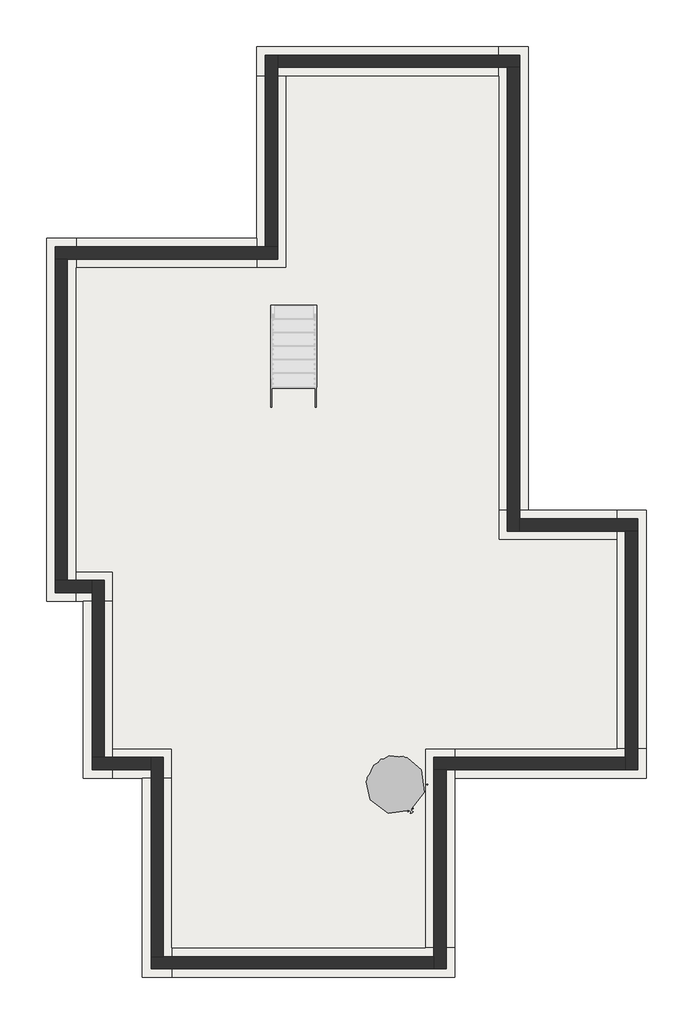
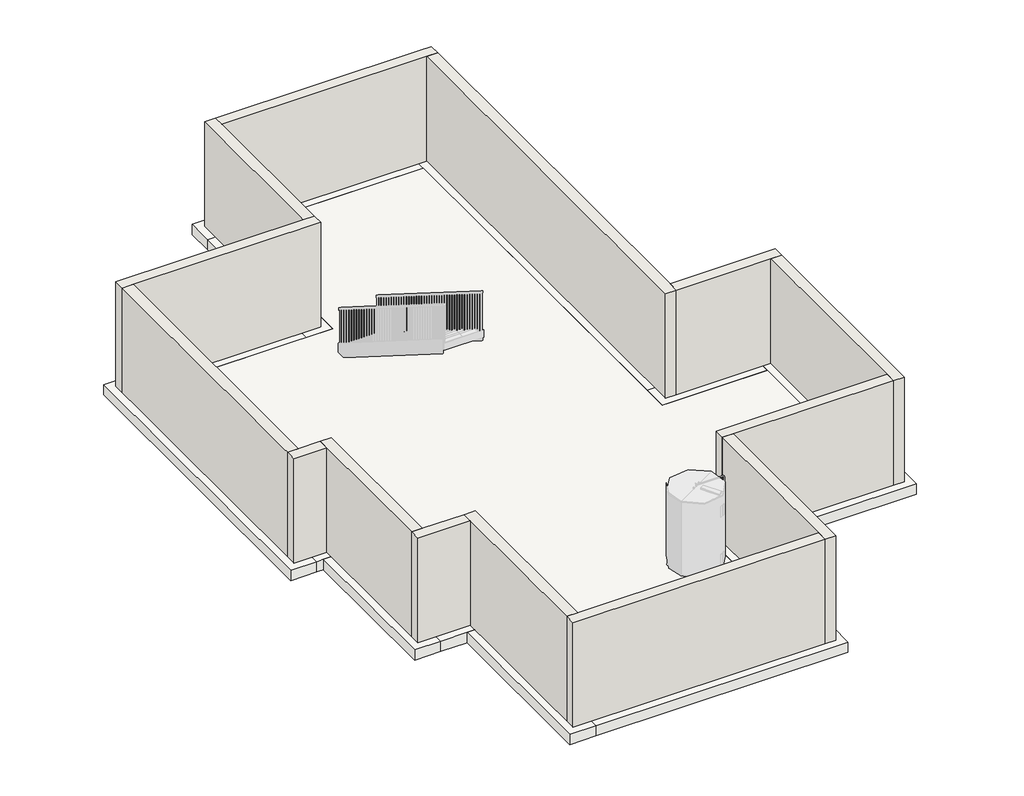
# One storey, part 1 of 2: 14 footings, 14 walls, 1 slab.
"""IFC4 building model written with IfcOpenShell, lengths in millimetres."""

from ifc_helpers import new_model, si_unit, frame, origin, place, context, project, spatial, polyline, outline, extrude, faceted_brep, element, save

model = new_model("IFC4")

# Units and contexts
model_context = context("Model", 3, world=origin())
ifc_project = project(units=[si_unit("LENGTHUNIT", "METRE", prefix="MILLI")], contexts=[model_context])

# Site, building, storey
site = spatial("IfcSite", under=ifc_project)
building = spatial("IfcBuilding", under=site)
storey = spatial("IfcBuildingStorey", under=building, Name="T.O. Footing", Elevation=-2819.4)

# Footings
placement = place(None, origin())
element("IfcFooting", 1, ObjectType="Bearing Footing - 24\" x 10\"", at=placement, inside=storey, context=model_context, shape_type="Brep", body=[
    faceted_brep([(-10272.1230992, -3659.4077303, -2819.4), (-10272.1230992, -3049.8077303, -2819.4), (-10272.1230992, 3233.5172697, -2819.4), (-10272.1230992, 3843.1172697, -2819.4), (-10881.7230992, 3843.1172697, -2819.4), (-10881.7230992, -3659.4077303, -2819.4), (-10881.7230992, -3659.4077303, -3073.4), (-10881.7230992, 3843.1172697, -3073.4), (-10272.1230992, -3659.4077303, -3073.4), (-10272.1230992, 3843.1172697, -3073.4), (-10272.1230992, 3233.5172697, -3073.4), (-10272.1230992, -3049.8077303, -3073.4)], [[[0, 1, 2, 3, 4, 5]], [[6, 5, 4, 7]], [[8, 6, 7, 9, 10, 11]], [[0, 8, 11, 10, 9, 3, 2, 1]], [[0, 5, 6, 8]], [[4, 3, 9, 7]]]),
])
element("IfcFooting", 2, ObjectType="Bearing Footing - 24\" x 10\"", at=placement, inside=storey, context=model_context, shape_type="Brep", body=[
    faceted_brep([(-9510.1230992, -3659.4077303, -2819.4), (-9510.1230992, -3049.8077303, -2819.4), (-10272.1230992, -3049.8077303, -2819.4), (-10272.1230992, -3659.4077303, -2819.4), (-10119.7230992, -3659.4077303, -2819.4), (-9510.1230992, -3659.4077303, -3073.4), (-10272.1230992, -3659.4077303, -3073.4), (-10119.7230992, -3659.4077303, -3073.4), (-9510.1230992, -3049.8077303, -3073.4), (-10272.1230992, -3049.8077303, -3073.4)], [[[0, 1, 2, 3, 4]], [[5, 0, 4, 3, 6, 7]], [[8, 5, 7, 6, 9]], [[1, 8, 9, 2]], [[3, 2, 9, 6]], [[1, 0, 5, 8]]]),
])
element("IfcFooting", 3, ObjectType="Bearing Footing - 24\" x 10\"", at=placement, inside=storey, context=model_context, shape_type="Brep", body=[
    faceted_brep([(-10119.7230992, -7317.0077303, -2819.4), (-9510.1230992, -7317.0077303, -2819.4), (-9510.1230992, -6707.4077303, -2819.4), (-9510.1230992, -3659.4077303, -2819.4), (-10119.7230992, -3659.4077303, -2819.4), (-10119.7230992, -7317.0077303, -3073.4), (-10119.7230992, -3659.4077303, -3073.4), (-9510.1230992, -7317.0077303, -3073.4), (-9510.1230992, -3659.4077303, -3073.4), (-9510.1230992, -6707.4077303, -3073.4)], [[[0, 1, 2, 3, 4]], [[5, 0, 4, 6]], [[7, 5, 6, 8, 9]], [[1, 7, 9, 8, 3, 2]], [[4, 3, 8, 6]], [[1, 0, 5, 7]]]),
])
element("IfcFooting", 4, ObjectType="Bearing Footing - 24\" x 10\"", at=placement, inside=storey, context=model_context, shape_type="Brep", body=[
    faceted_brep([(-8290.9230992, -7317.0077303, -2819.4), (-8290.9230992, -6707.4077303, -2819.4), (-9510.1230992, -6707.4077303, -2819.4), (-9510.1230992, -7317.0077303, -2819.4), (-8900.5230992, -7317.0077303, -2819.4), (-8290.9230992, -7317.0077303, -3073.4), (-9510.1230992, -7317.0077303, -3073.4), (-8900.5230992, -7317.0077303, -3073.4), (-8290.9230992, -6707.4077303, -3073.4), (-9510.1230992, -6707.4077303, -3073.4)], [[[0, 1, 2, 3, 4]], [[5, 0, 4, 3, 6, 7]], [[8, 5, 7, 6, 9]], [[1, 8, 9, 2]], [[3, 2, 9, 6]], [[1, 0, 5, 8]]]),
])
element("IfcFooting", 5, ObjectType="Bearing Footing - 24\" x 10\"", at=placement, inside=storey, context=model_context, shape_type="Brep", body=[
    faceted_brep([(-8900.5230992, -11431.8077303, -2819.4), (-8290.9230992, -11431.8077303, -2819.4), (-8290.9230992, -10822.2077303, -2819.4), (-8290.9230992, -7317.0077303, -2819.4), (-8900.5230992, -7317.0077303, -2819.4), (-8900.5230992, -11431.8077303, -3073.4), (-8900.5230992, -7317.0077303, -3073.4), (-8290.9230992, -11431.8077303, -3073.4), (-8290.9230992, -7317.0077303, -3073.4), (-8290.9230992, -10822.2077303, -3073.4)], [[[0, 1, 2, 3, 4]], [[5, 0, 4, 6]], [[7, 5, 6, 8, 9]], [[1, 7, 9, 8, 3, 2]], [[4, 3, 8, 6]], [[1, 0, 5, 7]]]),
])
element("IfcFooting", 6, ObjectType="Bearing Footing - 24\" x 10\"", at=placement, inside=storey, context=model_context, shape_type="Brep", body=[
    faceted_brep([(-2448.9230992, -11431.8077303, -2819.4), (-2448.9230992, -10822.2077303, -2819.4), (-3058.5230992, -10822.2077303, -2819.4), (-8290.9230992, -10822.2077303, -2819.4), (-8290.9230992, -11431.8077303, -2819.4), (-2448.9230992, -11431.8077303, -3073.4), (-8290.9230992, -11431.8077303, -3073.4), (-2448.9230992, -10822.2077303, -3073.4), (-8290.9230992, -10822.2077303, -3073.4), (-3058.5230992, -10822.2077303, -3073.4)], [[[0, 1, 2, 3, 4]], [[5, 0, 4, 6]], [[7, 5, 6, 8, 9]], [[1, 7, 9, 8, 3, 2]], [[4, 3, 8, 6]], [[1, 0, 5, 7]]]),
])
element("IfcFooting", 7, ObjectType="Bearing Footing - 24\" x 10\"", at=placement, inside=storey, context=model_context, shape_type="Brep", body=[
    faceted_brep([(-2448.9230992, -6707.4077303, -2819.4), (-3058.5230992, -6707.4077303, -2819.4), (-3058.5230992, -10822.2077303, -2819.4), (-2448.9230992, -10822.2077303, -2819.4), (-2448.9230992, -7317.0077303, -2819.4), (-2448.9230992, -6707.4077303, -3073.4), (-2448.9230992, -10822.2077303, -3073.4), (-2448.9230992, -7317.0077303, -3073.4), (-3058.5230992, -6707.4077303, -3073.4), (-3058.5230992, -10822.2077303, -3073.4)], [[[0, 1, 2, 3, 4]], [[5, 0, 4, 3, 6, 7]], [[8, 5, 7, 6, 9]], [[1, 8, 9, 2]], [[3, 2, 9, 6]], [[1, 0, 5, 8]]]),
])
element("IfcFooting", 8, ObjectType="Bearing Footing - 24\" x 10\"", at=placement, inside=storey, context=model_context, shape_type="Brep", body=[
    faceted_brep([(1513.4769008, -7317.0077303, -2819.4), (1513.4769008, -6707.4077303, -2819.4), (903.8769008, -6707.4077303, -2819.4), (-2448.9230992, -6707.4077303, -2819.4), (-2448.9230992, -7317.0077303, -2819.4), (1513.4769008, -7317.0077303, -3073.4), (-2448.9230992, -7317.0077303, -3073.4), (1513.4769008, -6707.4077303, -3073.4), (-2448.9230992, -6707.4077303, -3073.4), (903.8769008, -6707.4077303, -3073.4)], [[[0, 1, 2, 3, 4]], [[5, 0, 4, 6]], [[7, 5, 6, 8, 9]], [[1, 7, 9, 8, 3, 2]], [[4, 3, 8, 6]], [[1, 0, 5, 7]]]),
])
element("IfcFooting", 9, ObjectType="Bearing Footing - 24\" x 10\"", at=placement, inside=storey, context=model_context, shape_type="Brep", body=[
    faceted_brep([(1513.4769008, -1779.8077303, -2819.4), (903.8769008, -1779.8077303, -2819.4), (903.8769008, -2389.4077303, -2819.4), (903.8769008, -6707.4077303, -2819.4), (1513.4769008, -6707.4077303, -2819.4), (1513.4769008, -1779.8077303, -3073.4), (1513.4769008, -6707.4077303, -3073.4), (903.8769008, -1779.8077303, -3073.4), (903.8769008, -6707.4077303, -3073.4), (903.8769008, -2389.4077303, -3073.4)], [[[0, 1, 2, 3, 4]], [[5, 0, 4, 6]], [[7, 5, 6, 8, 9]], [[1, 7, 9, 8, 3, 2]], [[4, 3, 8, 6]], [[1, 0, 5, 7]]]),
])
element("IfcFooting", 10, ObjectType="Bearing Footing - 24\" x 10\"", at=placement, inside=storey, context=model_context, shape_type="Brep", body=[
    faceted_brep([(-1534.5230992, -1779.8077303, -2819.4), (-1534.5230992, -2389.4077303, -2819.4), (903.8769008, -2389.4077303, -2819.4), (903.8769008, -1779.8077303, -2819.4), (-924.9230992, -1779.8077303, -2819.4), (-1534.5230992, -1779.8077303, -3073.4), (903.8769008, -1779.8077303, -3073.4), (-924.9230992, -1779.8077303, -3073.4), (-1534.5230992, -2389.4077303, -3073.4), (903.8769008, -2389.4077303, -3073.4)], [[[0, 1, 2, 3, 4]], [[5, 0, 4, 3, 6, 7]], [[8, 5, 7, 6, 9]], [[1, 8, 9, 2]], [[3, 2, 9, 6]], [[1, 0, 5, 8]]]),
])
element("IfcFooting", 11, ObjectType="Bearing Footing - 24\" x 10\"", at=placement, inside=storey, context=model_context, shape_type="Brep", body=[
    faceted_brep([(-924.9230992, 7805.5172697, -2819.4), (-1534.5230992, 7805.5172697, -2819.4), (-1534.5230992, 7195.9172697, -2819.4), (-1534.5230992, -1779.8077303, -2819.4), (-924.9230992, -1779.8077303, -2819.4), (-924.9230992, 7805.5172697, -3073.4), (-924.9230992, -1779.8077303, -3073.4), (-1534.5230992, 7805.5172697, -3073.4), (-1534.5230992, -1779.8077303, -3073.4), (-1534.5230992, 7195.9172697, -3073.4)], [[[0, 1, 2, 3, 4]], [[5, 0, 4, 6]], [[7, 5, 6, 8, 9]], [[1, 7, 9, 8, 3, 2]], [[4, 3, 8, 6]], [[1, 0, 5, 7]]]),
])
element("IfcFooting", 12, ObjectType="Bearing Footing - 24\" x 10\"", at=placement, inside=storey, context=model_context, shape_type="Brep", body=[
    faceted_brep([(-6538.3230992, 7805.5172697, -2819.4), (-6538.3230992, 7195.9172697, -2819.4), (-5928.7230992, 7195.9172697, -2819.4), (-1534.5230992, 7195.9172697, -2819.4), (-1534.5230992, 7805.5172697, -2819.4), (-6538.3230992, 7805.5172697, -3073.4), (-1534.5230992, 7805.5172697, -3073.4), (-6538.3230992, 7195.9172697, -3073.4), (-1534.5230992, 7195.9172697, -3073.4), (-5928.7230992, 7195.9172697, -3073.4)], [[[0, 1, 2, 3, 4]], [[5, 0, 4, 6]], [[7, 5, 6, 8, 9]], [[1, 7, 9, 8, 3, 2]], [[4, 3, 8, 6]], [[1, 0, 5, 7]]]),
])
element("IfcFooting", 13, ObjectType="Bearing Footing - 24\" x 10\"", at=placement, inside=storey, context=model_context, shape_type="Brep", body=[
    faceted_brep([(-6538.3230992, 3233.5172697, -2819.4), (-5928.7230992, 3233.5172697, -2819.4), (-5928.7230992, 7195.9172697, -2819.4), (-6538.3230992, 7195.9172697, -2819.4), (-6538.3230992, 3843.1172697, -2819.4), (-6538.3230992, 3233.5172697, -3073.4), (-6538.3230992, 7195.9172697, -3073.4), (-6538.3230992, 3843.1172697, -3073.4), (-5928.7230992, 3233.5172697, -3073.4), (-5928.7230992, 7195.9172697, -3073.4)], [[[0, 1, 2, 3, 4]], [[5, 0, 4, 3, 6, 7]], [[8, 5, 7, 6, 9]], [[1, 8, 9, 2]], [[3, 2, 9, 6]], [[1, 0, 5, 8]]]),
])
element("IfcFooting", 14, ObjectType="Bearing Footing - 24\" x 10\"", at=placement, inside=storey, context=model_context, shape_type="SweptSolid", body=[
    extrude(outline(polyline([(-10272.1230992, 3233.5172697), (-10272.1230992, 3843.1172697), (-6538.3230992, 3843.1172697), (-6538.3230992, 3233.5172697), (-10272.1230992, 3233.5172697)])), frame((0.0, 0.0, -3073.4), z_axis=(0.0, 0.0, 1.0), x_axis=(1.0, 0.0, 0.0)), (0.0, 0.0, 1.0), 254.0),
])

# Slab
element("IfcSlab", 15, ObjectType="Concrete Slab - 10\"", at=placement, inside=storey, context=model_context, shape_type="SweptSolid", body=[
    extrude(outline(polyline([(-1534.5230992, 7195.9172697), (-1534.5230992, -2389.4077303), (903.8769008, -2389.4077303), (903.8769008, -6707.4077303), (-3058.5230992, -6707.4077303), (-3058.5230992, -10822.2077303), (-8290.9230992, -10822.2077303), (-8290.9230992, -6707.4077303), (-9510.1230992, -6707.4077303), (-9510.1230992, -3049.8077303), (-10272.1230992, -3049.8077303), (-10272.1230992, 3233.5172697), (-5928.7230992, 3233.5172697), (-5928.7230992, 7195.9172697), (-1534.5230992, 7195.9172697)])), frame((0.0, 0.0, -3073.4), z_axis=(0.0, 0.0, 1.0), x_axis=(1.0, 0.0, 0.0)), (0.0, 0.0, 1.0), 254.0),
])

# Walls
element("IfcWall", 16, ObjectType="Foundation - 10\" Concrete", at=placement, inside=storey, context=model_context, shape_type="Brep", body=[
    faceted_brep([(-10703.9230992, 3411.3172697, -254.0), (-10703.9230992, 3411.3172697, -2819.4), (-10449.9230992, 3411.3172697, -2819.4), (-6106.5230992, 3411.3172697, -2819.4), (-6106.5230992, 3411.3172697, -254.0), (-10449.9230992, 3411.3172697, -254.0), (-10703.9230992, 3665.3172697, -2819.4), (-10703.9230992, 3665.3172697, -254.0), (-6360.5230992, 3665.3172697, -254.0), (-6106.5230992, 3665.3172697, -254.0), (-6106.5230992, 3665.3172697, -2819.4), (-6360.5230992, 3665.3172697, -2819.4), (-10703.9230992, 3528.7922697, -254.0)], [[[0, 1, 2, 3, 4, 5]], [[6, 7, 8, 9, 10, 11]], [[3, 2, 1, 6, 11, 10]], [[0, 5, 4, 9, 8, 7, 12]], [[4, 3, 10, 9]], [[0, 12, 7, 6, 1]]]),
])
element("IfcWall", 17, ObjectType="Foundation - 10\" Concrete", at=placement, inside=storey, context=model_context, shape_type="Brep", body=[
    faceted_brep([(-6106.5230992, 3665.3172697, -2819.4), (-6106.5230992, 7373.7172697, -2819.4), (-6106.5230992, 7627.7172697, -2819.4), (-6106.5230992, 7627.7172697, -254.0), (-6106.5230992, 7373.7172697, -254.0), (-6106.5230992, 3665.3172697, -254.0), (-6360.5230992, 3665.3172697, -2819.4), (-6360.5230992, 3665.3172697, -254.0), (-6360.5230992, 7627.7172697, -254.0), (-6360.5230992, 7627.7172697, -2819.4)], [[[0, 1, 2, 3, 4, 5]], [[6, 7, 8, 9]], [[2, 1, 0, 6, 9]], [[5, 4, 3, 8, 7]], [[0, 5, 7, 6]], [[3, 2, 9, 8]]]),
])
element("IfcWall", 18, ObjectType="Foundation - 10\" Concrete", at=placement, inside=storey, context=model_context, shape_type="Brep", body=[
    faceted_brep([(-6106.5230992, 7373.7172697, -2819.4), (-1356.7230992, 7373.7172697, -2819.4), (-1102.7230992, 7373.7172697, -2819.4), (-1102.7230992, 7373.7172697, -254.0), (-1356.7230992, 7373.7172697, -254.0), (-6106.5230992, 7373.7172697, -254.0), (-6106.5230992, 7627.7172697, -2819.4), (-6106.5230992, 7627.7172697, -254.0), (-1356.7230992, 7627.7172697, -254.0), (-1102.7230992, 7627.7172697, -254.0), (-1102.7230992, 7627.7172697, -914.4), (-1102.7230992, 7627.7172697, -2819.4)], [[[0, 1, 2, 3, 4, 5]], [[6, 7, 8, 9, 10, 11]], [[2, 1, 0, 6, 11]], [[5, 4, 3, 9, 8, 7]], [[0, 5, 7, 6]], [[2, 11, 10, 9, 3]]]),
])
element("IfcWall", 19, ObjectType="Foundation - 10\" Concrete", at=placement, inside=storey, context=model_context, shape_type="Brep", body=[
    faceted_brep([(-1356.7230992, 7373.7172697, -254.0), (-1356.7230992, 7373.7172697, -2819.4), (-1356.7230992, -2211.6077303, -2819.4), (-1356.7230992, -2211.6077303, -254.0), (-1102.7230992, 7373.7172697, -2819.4), (-1102.7230992, 7373.7172697, -914.4), (-1102.7230992, 7373.7172697, -508.0), (-1102.7230992, 7373.7172697, -254.0), (-1102.7230992, -1957.6077303, -254.0), (-1102.7230992, -2211.6077303, -254.0), (-1102.7230992, -2211.6077303, -2819.4), (-1102.7230992, -1957.6077303, -2819.4)], [[[0, 1, 2, 3]], [[4, 5, 6, 7, 8, 9, 10, 11]], [[2, 1, 4, 11, 10]], [[0, 3, 9, 8, 7]], [[3, 2, 10, 9]], [[0, 7, 6, 5, 4, 1]]]),
])
element("IfcWall", 20, ObjectType="Foundation - 10\" Concrete", at=placement, inside=storey, context=model_context, shape_type="Brep", body=[
    faceted_brep([(-1102.7230992, -2211.6077303, -2819.4), (1081.6769008, -2211.6077303, -2819.4), (1335.6769008, -2211.6077303, -2819.4), (1335.6769008, -2211.6077303, -254.0), (1081.6769008, -2211.6077303, -254.0), (-1102.7230992, -2211.6077303, -254.0), (-1102.7230992, -1957.6077303, -2819.4), (-1102.7230992, -1957.6077303, -254.0), (1335.6769008, -1957.6077303, -254.0), (1335.6769008, -1957.6077303, -2819.4)], [[[0, 1, 2, 3, 4, 5]], [[6, 7, 8, 9]], [[2, 1, 0, 6, 9]], [[5, 4, 3, 8, 7]], [[0, 5, 7, 6]], [[3, 2, 9, 8]]]),
])
element("IfcWall", 21, ObjectType="Foundation - 10\" Concrete", at=placement, inside=storey, context=model_context, shape_type="Brep", body=[
    faceted_brep([(1081.6769008, -2211.6077303, -2819.4), (1081.6769008, -6885.2077303, -2819.4), (1081.6769008, -7139.2077303, -2819.4), (1081.6769008, -7139.2077303, -254.0), (1081.6769008, -6885.2077303, -254.0), (1081.6769008, -2211.6077303, -254.0), (1335.6769008, -2211.6077303, -2819.4), (1335.6769008, -2211.6077303, -254.0), (1335.6769008, -3427.6327303, -254.0), (1335.6769008, -3681.6327303, -254.0), (1335.6769008, -5370.7327303, -254.0), (1335.6769008, -5624.7327303, -254.0), (1335.6769008, -7139.2077303, -254.0), (1335.6769008, -7139.2077303, -2819.4)], [[[0, 1, 2, 3, 4, 5]], [[6, 7, 8, 9, 10, 11, 12, 13]], [[2, 1, 0, 6, 13]], [[5, 4, 3, 12, 11, 10, 9, 8, 7]], [[0, 5, 7, 6]], [[3, 2, 13, 12]]]),
])
element("IfcWall", 22, ObjectType="Foundation - 10\" Concrete", at=placement, inside=storey, context=model_context, shape_type="Brep", body=[
    faceted_brep([(1081.6769008, -6885.2077303, -2819.4), (-2880.7230992, -6885.2077303, -2819.4), (-2880.7230992, -6885.2077303, -254.0), (1081.6769008, -6885.2077303, -254.0), (1081.6769008, -7139.2077303, -2819.4), (1081.6769008, -7139.2077303, -254.0), (-2626.7230992, -7139.2077303, -254.0), (-2880.7230992, -7139.2077303, -254.0), (-2880.7230992, -7139.2077303, -2819.4), (-2626.7230992, -7139.2077303, -2819.4)], [[[0, 1, 2, 3]], [[4, 5, 6, 7, 8, 9]], [[1, 0, 4, 9, 8]], [[3, 2, 7, 6, 5]], [[0, 3, 5, 4]], [[2, 1, 8, 7]]]),
])
element("IfcWall", 23, ObjectType="Foundation - 10\" Concrete", at=placement, inside=storey, context=model_context, shape_type="Brep", body=[
    faceted_brep([(-2880.7230992, -7139.2077303, -2819.4), (-2880.7230992, -11000.0077303, -2819.4), (-2880.7230992, -11254.0077303, -2819.4), (-2880.7230992, -11254.0077303, -254.0), (-2880.7230992, -11000.0077303, -254.0), (-2880.7230992, -7139.2077303, -254.0), (-2626.7230992, -7139.2077303, -2819.4), (-2626.7230992, -7139.2077303, -254.0), (-2626.7230992, -11254.0077303, -254.0), (-2626.7230992, -11254.0077303, -2819.4)], [[[0, 1, 2, 3, 4, 5]], [[6, 7, 8, 9]], [[2, 1, 0, 6, 9]], [[5, 4, 3, 8, 7]], [[0, 5, 7, 6]], [[3, 2, 9, 8]]]),
])
element("IfcWall", 24, ObjectType="Foundation - 10\" Concrete", at=placement, inside=storey, context=model_context, shape_type="Brep", body=[
    faceted_brep([(-2880.7230992, -11000.0077303, -2819.4), (-8468.7230992, -11000.0077303, -2819.4), (-8722.7230992, -11000.0077303, -2819.4), (-8722.7230992, -11000.0077303, -254.0), (-8468.7230992, -11000.0077303, -254.0), (-2880.7230992, -11000.0077303, -254.0), (-2880.7230992, -11254.0077303, -2819.4), (-2880.7230992, -11254.0077303, -254.0), (-8722.7230992, -11254.0077303, -254.0), (-8722.7230992, -11254.0077303, -2819.4)], [[[0, 1, 2, 3, 4, 5]], [[6, 7, 8, 9]], [[2, 1, 0, 6, 9]], [[5, 4, 3, 8, 7]], [[0, 5, 7, 6]], [[3, 2, 9, 8]]]),
])
element("IfcWall", 25, ObjectType="Foundation - 10\" Concrete", at=placement, inside=storey, context=model_context, shape_type="Brep", body=[
    faceted_brep([(-8468.7230992, -11000.0077303, -2819.4), (-8468.7230992, -6885.2077303, -2819.4), (-8468.7230992, -6885.2077303, -254.0), (-8468.7230992, -11000.0077303, -254.0), (-8722.7230992, -11000.0077303, -2819.4), (-8722.7230992, -11000.0077303, -254.0), (-8722.7230992, -7139.2077303, -254.0), (-8722.7230992, -6885.2077303, -254.0), (-8722.7230992, -6885.2077303, -2819.4), (-8722.7230992, -7139.2077303, -2819.4)], [[[0, 1, 2, 3]], [[4, 5, 6, 7, 8, 9]], [[1, 0, 4, 9, 8]], [[3, 2, 7, 6, 5]], [[0, 3, 5, 4]], [[2, 1, 8, 7]]]),
])
element("IfcWall", 26, ObjectType="Foundation - 10\" Concrete", at=placement, inside=storey, context=model_context, shape_type="Brep", body=[
    faceted_brep([(-8722.7230992, -6885.2077303, -2819.4), (-9687.9230992, -6885.2077303, -2819.4), (-9941.9230992, -6885.2077303, -2819.4), (-9941.9230992, -6885.2077303, -254.0), (-9687.9230992, -6885.2077303, -254.0), (-8722.7230992, -6885.2077303, -254.0), (-8722.7230992, -7139.2077303, -2819.4), (-8722.7230992, -7139.2077303, -254.0), (-9941.9230992, -7139.2077303, -254.0), (-9941.9230992, -7139.2077303, -2819.4)], [[[0, 1, 2, 3, 4, 5]], [[6, 7, 8, 9]], [[2, 1, 0, 6, 9]], [[5, 4, 3, 8, 7]], [[0, 5, 7, 6]], [[3, 2, 9, 8]]]),
])
element("IfcWall", 27, ObjectType="Foundation - 10\" Concrete", at=placement, inside=storey, context=model_context, shape_type="Brep", body=[
    faceted_brep([(-9687.9230992, -6885.2077303, -2819.4), (-9687.9230992, -3227.6077303, -2819.4), (-9687.9230992, -3227.6077303, -254.0), (-9687.9230992, -6885.2077303, -254.0), (-9941.9230992, -6885.2077303, -2819.4), (-9941.9230992, -6885.2077303, -254.0), (-9941.9230992, -3481.6077303, -254.0), (-9941.9230992, -3227.6077303, -254.0), (-9941.9230992, -3227.6077303, -2819.4), (-9941.9230992, -3481.6077303, -2819.4)], [[[0, 1, 2, 3]], [[4, 5, 6, 7, 8, 9]], [[1, 0, 4, 9, 8]], [[3, 2, 7, 6, 5]], [[0, 3, 5, 4]], [[2, 1, 8, 7]]]),
])
element("IfcWall", 28, ObjectType="Foundation - 10\" Concrete", at=placement, inside=storey, context=model_context, shape_type="Brep", body=[
    faceted_brep([(-9941.9230992, -3227.6077303, -2819.4), (-10449.9230992, -3227.6077303, -2819.4), (-10703.9230992, -3227.6077303, -2819.4), (-10703.9230992, -3227.6077303, -254.0), (-10449.9230992, -3227.6077303, -254.0), (-9941.9230992, -3227.6077303, -254.0), (-9941.9230992, -3481.6077303, -2819.4), (-9941.9230992, -3481.6077303, -254.0), (-10703.9230992, -3481.6077303, -254.0), (-10703.9230992, -3481.6077303, -2819.4), (-10703.9230992, -3332.3827303, -254.0)], [[[0, 1, 2, 3, 4, 5]], [[6, 7, 8, 9]], [[2, 1, 0, 6, 9]], [[5, 4, 3, 10, 8, 7]], [[0, 5, 7, 6]], [[2, 9, 8, 10, 3]]]),
])
element("IfcWall", 29, ObjectType="Foundation - 10\" Concrete", at=placement, inside=storey, context=model_context, shape_type="Brep", body=[
    faceted_brep([(-10449.9230992, -3227.6077303, -254.0), (-10449.9230992, -3227.6077303, -2819.4), (-10449.9230992, 3411.3172697, -2819.4), (-10449.9230992, 3411.3172697, -254.0), (-10703.9230992, -3227.6077303, -2819.4), (-10703.9230992, -3227.6077303, -254.0), (-10703.9230992, -3078.3827303, -254.0), (-10703.9230992, -843.1827303, -254.0), (-10703.9230992, -589.1827303, -254.0), (-10703.9230992, 3411.3172697, -254.0), (-10703.9230992, 3411.3172697, -2819.4)], [[[0, 1, 2, 3]], [[4, 5, 6, 7, 8, 9, 10]], [[2, 1, 4, 10]], [[0, 3, 9, 8, 7, 6, 5]], [[2, 10, 9, 3]], [[0, 5, 4, 1]]]),
])

save(model, "model.ifc")
